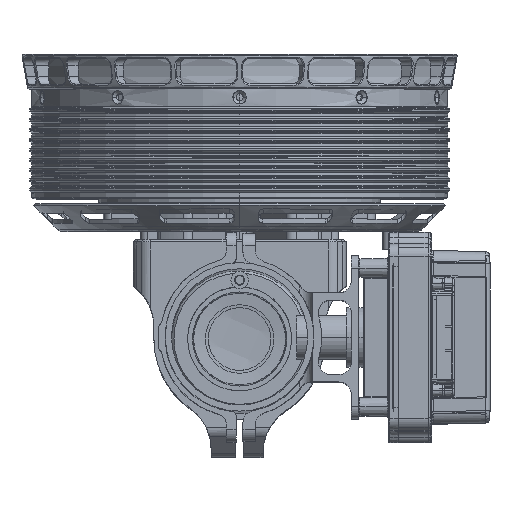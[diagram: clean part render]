
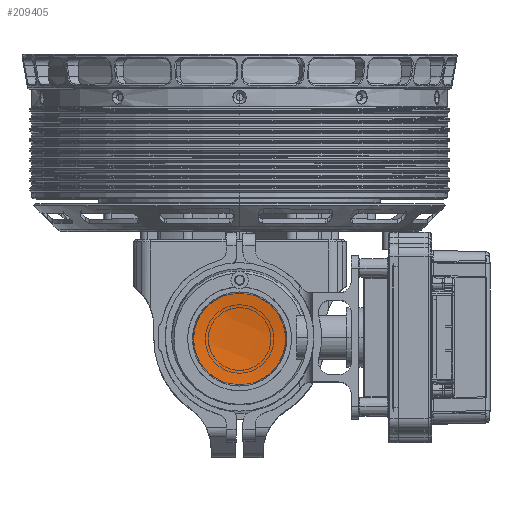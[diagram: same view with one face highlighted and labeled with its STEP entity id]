
A CAD part, top view. The second image highlights one B-rep face of the part: STEP entity #209405.
In plain terms, the highlighted free-form (B-spline) face has degree [3, 3] with [4, 4] control points.
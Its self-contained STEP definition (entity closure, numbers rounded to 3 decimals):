
#2351 = EDGE_CURVE ( 'NONE', #186604, #241631, #164473, .T. ) ;
#2549 = EDGE_LOOP ( 'NONE', ( #64209, #116628 ) ) ;
#3548 = EDGE_CURVE ( 'NONE', #241631, #186604, #196903, .T. ) ;
#22613 = CARTESIAN_POINT ( 'NONE',  ( -9.654, 28.709, -6.691 ) ) ;
#38488 = DIRECTION ( 'NONE',  ( 0., 0., 1. ) ) ;
#45659 = CARTESIAN_POINT ( 'NONE',  ( 3.316, -4.38, -11.126 ) ) ;
#59602 = CARTESIAN_POINT ( 'NONE',  ( -3.4, 12.37, -11.124 ) ) ;
#64209 = ORIENTED_EDGE ( 'NONE', *, *, #3548, .T. ) ;
#77507 = DIRECTION ( 'NONE',  ( 0., -1., 0. ) ) ;
#92963 = CARTESIAN_POINT ( 'NONE',  ( 24.504, 14.033, -6.704 ) ) ;
#94174 = CARTESIAN_POINT ( 'NONE',  ( -24.584, -6.044, -6.684 ) ) ;
#96590 = CARTESIAN_POINT ( 'NONE',  ( 19.91, 2.355, -8.898 ) ) ;
#97806 = CARTESIAN_POINT ( 'NONE',  ( 14.88, -9.349, -8.896 ) ) ;
#110850 = CARTESIAN_POINT ( 'NONE',  ( 0., -14.55, -8.395 ) ) ;
#113663 = DIRECTION ( 'NONE',  ( 0., -1., 0. ) ) ;
#116628 = ORIENTED_EDGE ( 'NONE', *, *, #2351, .T. ) ;
#118041 = CARTESIAN_POINT ( 'NONE',  ( 0., 4., -8.395 ) ) ;
#120818 = CARTESIAN_POINT ( 'NONE',  ( -13.259, -10.91, -8.877 ) ) ;
#131140 = CARTESIAN_POINT ( 'NONE',  ( -19.992, 5.634, -8.883 ) ) ;
#133526 = CARTESIAN_POINT ( 'NONE',  ( 13.176, 18.9, -8.889 ) ) ;
#136893 = AXIS2_PLACEMENT_3D ( 'NONE', #222389, #38488, #113663 ) ;
#150862 = CARTESIAN_POINT ( 'NONE',  ( 9.571, -20.719, -6.697 ) ) ;
#152104 = CARTESIAN_POINT ( 'NONE',  ( 8.345, 7.324, -11.128 ) ) ;
#152756 = CARTESIAN_POINT ( 'NONE',  ( 0., 22.55, -8.395 ) ) ;
#153890 = DIRECTION ( 'NONE',  ( 0., 0., 1. ) ) ;
#164473 = CIRCLE ( 'NONE', #136893, 18.55 ) ;
#168216 = CARTESIAN_POINT ( 'NONE',  ( 1.672, 23.842, -8.884 ) ) ;
#171807 = CARTESIAN_POINT ( 'NONE',  ( -1.755, -15.852, -8.881 ) ) ;
#172995 = CARTESIAN_POINT ( 'NONE',  ( -14.964, 17.339, -8.885 ) ) ;
#186604 = VERTEX_POINT ( 'NONE', #152756 ) ;
#186878 =( BOUNDED_SURFACE ( )  B_SPLINE_SURFACE ( 3, 3, ( 
 ( #92963, #133526, #168216, #22613 ),
 ( #96590, #152104, #59602, #172995 ),
 ( #97806, #45659, #225018, #131140 ),
 ( #150862, #171807, #120818, #94174 ) ),
 .UNSPECIFIED., .F., .F., .F. ) 
 B_SPLINE_SURFACE_WITH_KNOTS ( ( 4, 4 ),
 ( 4, 4 ),
 ( 0., 1. ),
 ( 0., 1. ),
 .UNSPECIFIED. ) 
 GEOMETRIC_REPRESENTATION_ITEM ( )  RATIONAL_B_SPLINE_SURFACE ( (
 ( 1., 0.99, 0.99, 1.),
 ( 0.99, 0.98, 0.98, 0.99),
 ( 0.99, 0.98, 0.98, 0.99),
 ( 1., 0.99, 0.99, 1.) ) ) 
 REPRESENTATION_ITEM ( '' )  SURFACE ( )  );
#196903 = CIRCLE ( 'NONE', #204671, 18.55 ) ;
#204671 = AXIS2_PLACEMENT_3D ( 'NONE', #118041, #153890, #77507 ) ;
#209405 = ADVANCED_FACE ( 'NONE', ( #226225 ), #186878, .F. ) ;
#222389 = CARTESIAN_POINT ( 'NONE',  ( 0., 4., -8.395 ) ) ;
#225018 = CARTESIAN_POINT ( 'NONE',  ( -8.429, 0.666, -11.122 ) ) ;
#226225 = FACE_OUTER_BOUND ( 'NONE', #2549, .T. ) ;
#241631 = VERTEX_POINT ( 'NONE', #110850 ) ;
